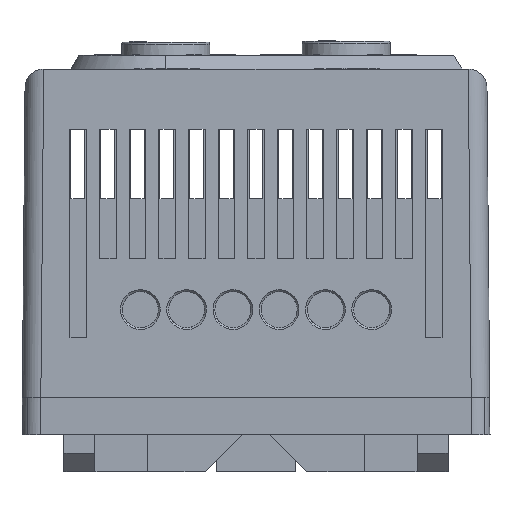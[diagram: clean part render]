
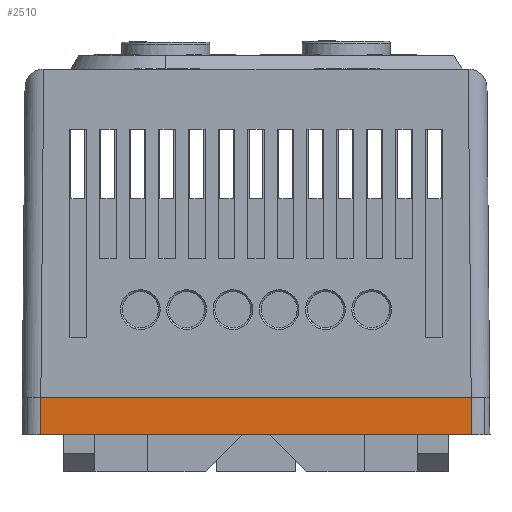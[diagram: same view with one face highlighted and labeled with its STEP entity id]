
A CAD part, front view. The second image highlights one B-rep face of the part: STEP entity #2510.
In plain terms, the highlighted planar face has unit normal (0, -1, 0).
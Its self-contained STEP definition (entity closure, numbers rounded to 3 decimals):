
#1676=PLANE('',#20257);
#2510=ADVANCED_FACE('',(#3474),#1676,.F.);
#3474=FACE_OUTER_BOUND('',#4390,.T.);
#4390=EDGE_LOOP('',(#9761,#9762,#9763,#9764));
#5493=LINE('',#25628,#7451);
#5526=LINE('',#25728,#7484);
#5571=LINE('',#25831,#7529);
#5642=LINE('',#25982,#7600);
#7451=VECTOR('',#21320,1.);
#7484=VECTOR('',#21353,1.);
#7529=VECTOR('',#21400,1.);
#7600=VECTOR('',#21491,1.);
#9761=ORIENTED_EDGE('',*,*,#17469,.F.);
#9762=ORIENTED_EDGE('',*,*,#17347,.T.);
#9763=ORIENTED_EDGE('',*,*,#17310,.T.);
#9764=ORIENTED_EDGE('',*,*,#17395,.T.);
#15395=VERTEX_POINT('',#25619);
#15398=VERTEX_POINT('',#25627);
#15434=VERTEX_POINT('',#25729);
#15478=VERTEX_POINT('',#25830);
#17310=EDGE_CURVE('',#15395,#15398,#5493,.T.);
#17347=EDGE_CURVE('',#15434,#15395,#5526,.T.);
#17395=EDGE_CURVE('',#15398,#15478,#5571,.T.);
#17469=EDGE_CURVE('',#15434,#15478,#5642,.T.);
#20257=AXIS2_PLACEMENT_3D('',#25991,#21492,#21493);
#21320=DIRECTION('',(0.,0.,1.));
#21353=DIRECTION('',(1.,0.,0.));
#21400=DIRECTION('',(-1.,0.,0.));
#21491=DIRECTION('',(0.,0.,1.));
#21492=DIRECTION('',(0.,1.,0.));
#21493=DIRECTION('',(1.,0.,0.));
#25619=CARTESIAN_POINT('',(23.25,-33.75,-4.));
#25627=CARTESIAN_POINT('',(23.25,-33.75,0.));
#25628=CARTESIAN_POINT('',(23.25,-33.75,-88.3));
#25728=CARTESIAN_POINT('',(23.25,-33.75,-4.));
#25729=CARTESIAN_POINT('',(-23.25,-33.75,-4.));
#25830=CARTESIAN_POINT('',(-23.25,-33.75,0.));
#25831=CARTESIAN_POINT('',(23.25,-33.75,0.));
#25982=CARTESIAN_POINT('',(-23.25,-33.75,-88.3));
#25991=CARTESIAN_POINT('',(23.25,-33.75,-88.3));
